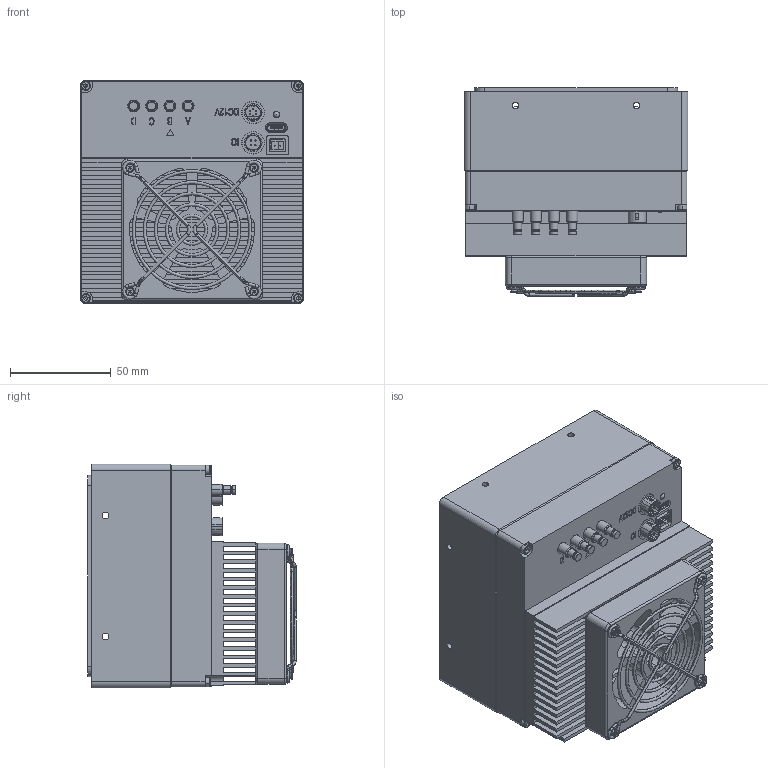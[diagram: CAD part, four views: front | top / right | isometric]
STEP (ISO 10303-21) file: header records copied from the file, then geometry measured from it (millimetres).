
FILE_DESCRIPTION (( 'STEP AP203' ), '1' );
FILE_NAME ('TTS101M2CXP-8M(C)-A01-V1.1.0.STEP', '2022-12-06T02:49:14', ( '微软用户' ), ( '微软中国' ), 'SwSTEP 2.0', 'SolidWorks 2017', '' );
FILE_SCHEMA (( 'CONFIG_CONTROL_DESIGN' ));
Length unit declared in the file: millimetre
Products named in the file (1): TTS101M2CXP-8M(C)-A01-V1.1.0
Bounding box: 111 x 103.17 x 111 mm (x, y, z)
Surface area: 139869.4 mm2 (no closed solid volume)
Topology: 0 solids, 77 shells, 807 faces, 2863 edges, 2075 vertices
Faces by surface type: plane 335, cylinder 305, bspline 78, cone 54, torus 24, sphere 11
Entity records: 33974 total; most frequent: CARTESIAN_POINT 10000, DIRECTION 5028, ORIENTED_EDGE 4411, EDGE_CURVE 2824, VERTEX_POINT 2063, AXIS2_PLACEMENT_3D 1687, LINE 1654, VECTOR 1654
